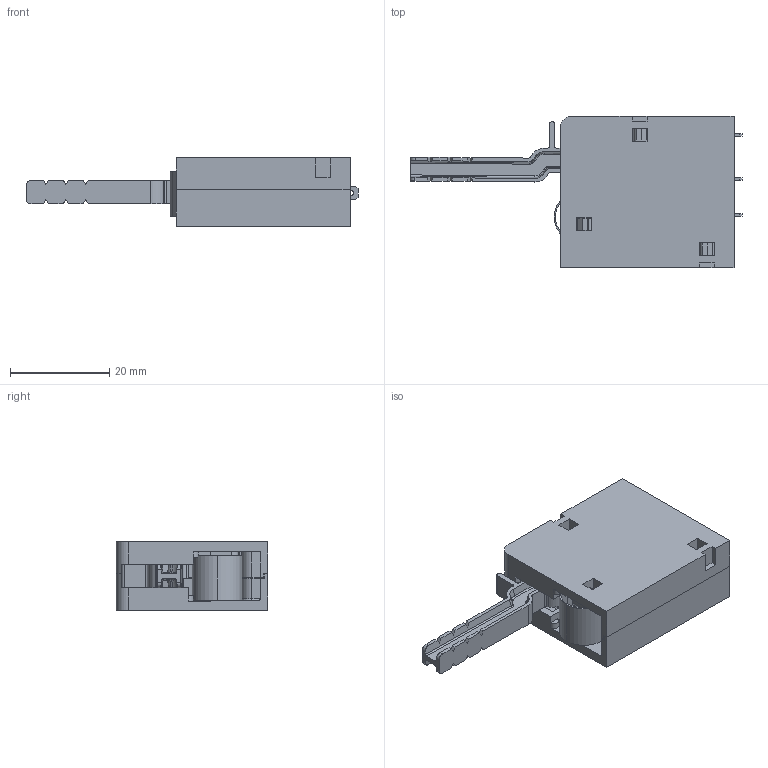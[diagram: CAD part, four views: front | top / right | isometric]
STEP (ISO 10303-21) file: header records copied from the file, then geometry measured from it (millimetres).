
FILE_DESCRIPTION (( 'STEP AP214' ), '1' );
FILE_NAME ('VL50.step', '2015-11-18T13:22:41', ( '' ), ( '' ), 'SwSTEP 2.0', 'SolidWorks 2011', '' );
FILE_SCHEMA (( 'AUTOMOTIVE_DESIGN' ));
Length unit declared in the file: millimetre
Products named in the file (1): VL50
Bounding box: 66.78 x 30.5 x 13.8 mm (x, y, z)
Volume: 8774.4 mm3; surface area: 12189.3 mm2
Topology: 5 solids, 5 shells, 627 faces, 1667 edges, 1075 vertices
Faces by surface type: plane 368, cylinder 184, bspline 58, cone 17
Entity records: 26905 total; most frequent: CARTESIAN_POINT 4667, ORIENTED_EDGE 3334, DIRECTION 2960, EDGE_CURVE 1667, LINE 1178, VECTOR 1178, VERTEX_POINT 1075, AXIS2_PLACEMENT_3D 891
